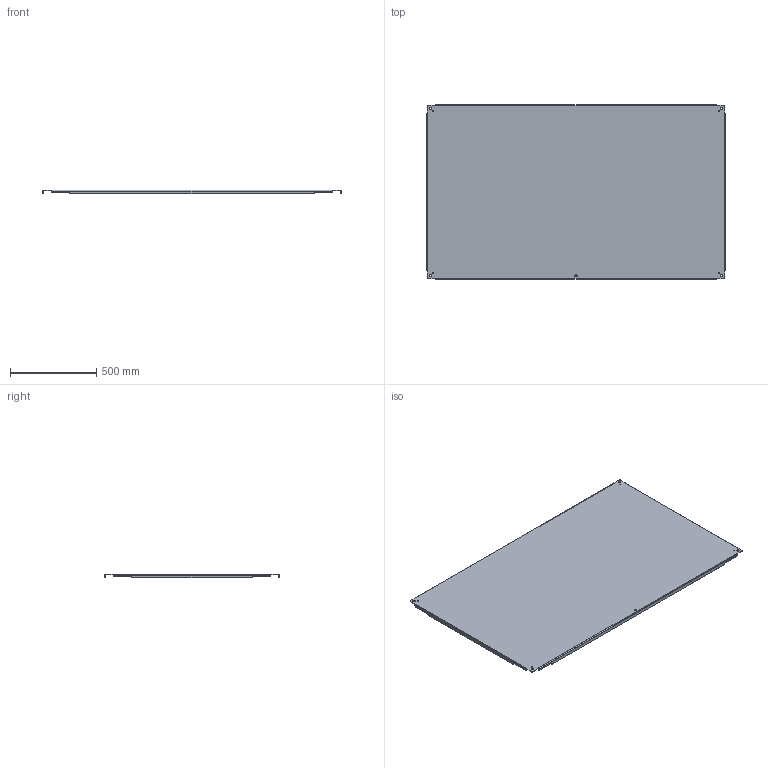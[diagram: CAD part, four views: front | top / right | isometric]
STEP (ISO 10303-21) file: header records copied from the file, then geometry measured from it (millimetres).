
FILE_DESCRIPTION((''),'2;1');
FILE_NAME('MODEL-070_ASM','2020-06-24T14:10:54',('joelb'),('SAGINAW CONTROL & ENGINEERING'),'CREO PARAMETRIC BY PTC INC, 2017260','CREO PARAMETRIC BY PTC INC, 2017260','');
FILE_SCHEMA(('AUTOMOTIVE_DESIGN { 1 0 10303 214 1 1 1 1 }'));
Length unit declared in the file: inch
Products named in the file (3): MODEL-070-SUBPNL; SCE-FSPS6; MODEL-070_ASM
Assembly tree (2 placements, depth 2):
  MODEL-070_ASM
    MODEL-070-SUBPNL
    SCE-FSPS6
Bounding box: 1725.61 x 1011.24 x 22.23 mm (x, y, z)
Volume: 5788110.7 mm3; surface area: 3664619.8 mm2
Topology: 1 solids, 1 shells, 124 faces, 334 edges, 212 vertices
Faces by surface type: plane 54, cylinder 46, bspline 24
Entity records: 7325 total; most frequent: CARTESIAN_POINT 1343, ORIENTED_EDGE 668, DIRECTION 636, PRESENTATION_STYLE_ASSIGNMENT 459, STYLED_ITEM 459, CURVE_STYLE 334, EDGE_CURVE 334, AXIS2_PLACEMENT_3D 213
